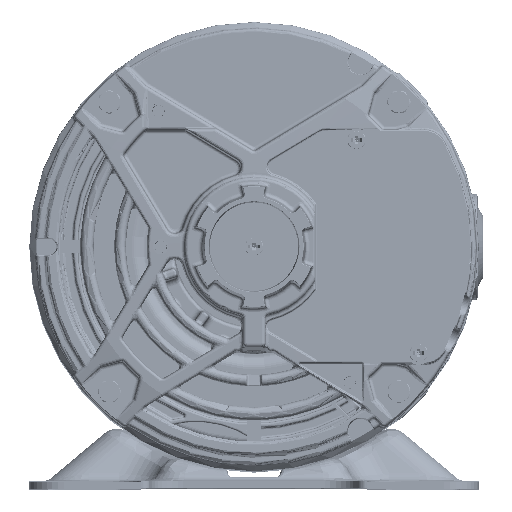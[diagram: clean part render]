
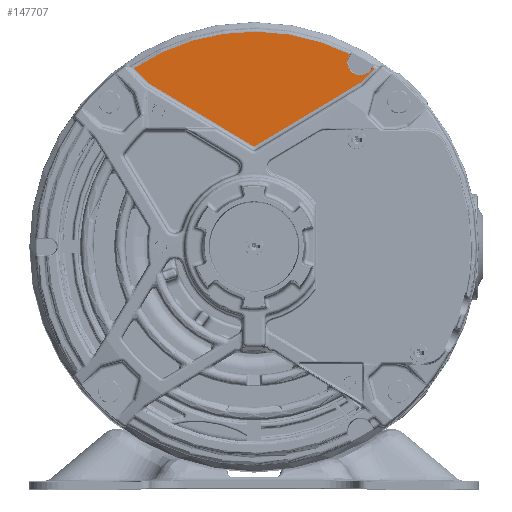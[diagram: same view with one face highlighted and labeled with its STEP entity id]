
A CAD part, top view. The second image highlights one B-rep face of the part: STEP entity #147707.
In plain terms, the highlighted planar face has unit normal (0, 0, 1).
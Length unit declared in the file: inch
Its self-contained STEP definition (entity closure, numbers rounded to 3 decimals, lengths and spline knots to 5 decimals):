
#4114 = VERTEX_POINT ( 'NONE', #343747 ) ;
#5103 = DIRECTION ( 'NONE',  ( 0.857, 0.515, 0. ) ) ;
#6562 = EDGE_CURVE ( 'NONE', #237366, #306438, #419266, .T. ) ;
#8040 = B_SPLINE_CURVE_WITH_KNOTS ( 'NONE', 3,
 ( #127367, #20206, #156569, #371034 ),
 .UNSPECIFIED., .F., .F.,
 ( 4, 4 ),
 ( 0., 0.0015 ),
 .UNSPECIFIED. ) ;
#8278 = EDGE_CURVE ( 'NONE', #182395, #4114, #402783, .T. ) ;
#8555 = DIRECTION ( 'NONE',  ( 0.707, 0.707, 0. ) ) ;
#13725 = EDGE_CURVE ( 'NONE', #38877, #237366, #113633, .T. ) ;
#14120 = CIRCLE ( 'NONE', #341310, 0.18989 ) ;
#14630 = CARTESIAN_POINT ( 'NONE',  ( -1.53257, 2.3678, 13.30005 ) ) ;
#20206 = CARTESIAN_POINT ( 'NONE',  ( 1.61326, 2.44836, 13.30005 ) ) ;
#24029 = PLANE ( 'NONE',  #153562 ) ;
#29358 = LINE ( 'NONE', #34744, #391264 ) ;
#34152 = EDGE_CURVE ( 'NONE', #306438, #342453, #391501, .T. ) ;
#34744 = CARTESIAN_POINT ( 'NONE',  ( -1.53413, 2.36922, 13.30005 ) ) ;
#38877 = VERTEX_POINT ( 'NONE', #337829 ) ;
#43890 = DIRECTION ( 'NONE',  ( 1., 0., 0. ) ) ;
#48385 = DIRECTION ( 'NONE',  ( 0., 0., -1. ) ) ;
#51327 = CARTESIAN_POINT ( 'NONE',  ( -1.53378, 2.36888, 13.30005 ) ) ;
#54581 = LINE ( 'NONE', #283950, #65551 ) ;
#62687 = ORIENTED_EDGE ( 'NONE', *, *, #397991, .T. ) ;
#65551 = VECTOR ( 'NONE', #5103, 39.37008 ) ;
#68008 = CARTESIAN_POINT ( 'NONE',  ( 1.53187, 2.36738, 13.30005 ) ) ;
#72494 = VERTEX_POINT ( 'NONE', #234776 ) ;
#81928 = VERTEX_POINT ( 'NONE', #188735 ) ;
#83466 = ORIENTED_EDGE ( 'NONE', *, *, #236771, .T. ) ;
#91769 = EDGE_CURVE ( 'NONE', #356746, #182395, #29358, .T. ) ;
#92066 = CARTESIAN_POINT ( 'NONE',  ( 1.71599, 2.59238, 13.30005 ) ) ;
#94508 = CARTESIAN_POINT ( 'NONE',  ( 0., 0., 13.30005 ) ) ;
#94532 =( BOUNDED_CURVE ( )  B_SPLINE_CURVE ( 3, ( #68008, #279408, #349983, #210410 ),
 .UNSPECIFIED., .F., .F. ) 
 B_SPLINE_CURVE_WITH_KNOTS ( ( 4, 4 ),
 ( 3.02001, 3.26318 ),
 .UNSPECIFIED. ) 
 CURVE ( )  GEOMETRIC_REPRESENTATION_ITEM ( )  RATIONAL_B_SPLINE_CURVE ( ( 1., 0.995, 0.995, 1. ) ) 
 REPRESENTATION_ITEM ( '' )  );
#94702 = LINE ( 'NONE', #356421, #363428 ) ;
#98168 = EDGE_CURVE ( 'NONE', #81928, #447532, #442197, .T. ) ;
#103653 = CARTESIAN_POINT ( 'NONE',  ( 1.53187, 2.36738, 13.30005 ) ) ;
#106639 = EDGE_LOOP ( 'NONE', ( #329211, #200873, #223985, #312415, #279411, #145686, #333480, #83466, #393985, #120212, #62687, #283566, #382128, #156772 ) ) ;
#108447 = CARTESIAN_POINT ( 'NONE',  ( 0., 0., 13.30005 ) ) ;
#113633 = B_SPLINE_CURVE_WITH_KNOTS ( 'NONE', 3,
 ( #202138, #375331, #409144, #199141 ),
 .UNSPECIFIED., .F., .F.,
 ( 4, 4 ),
 ( 0., 0.00362 ),
 .UNSPECIFIED. ) ;
#118576 = CARTESIAN_POINT ( 'NONE',  ( -1.53378, 2.36888, 13.30005 ) ) ;
#120212 = ORIENTED_EDGE ( 'NONE', *, *, #427306, .T. ) ;
#123809 = CARTESIAN_POINT ( 'NONE',  ( 1.70345, 2.57068, 13.30005 ) ) ;
#125551 = CARTESIAN_POINT ( 'NONE',  ( 1.59932, 2.43442, 13.30005 ) ) ;
#127367 = CARTESIAN_POINT ( 'NONE',  ( 1.59932, 2.43442, 13.30005 ) ) ;
#129739 = DIRECTION ( 'NONE',  ( 1., 0., 0. ) ) ;
#137515 = CARTESIAN_POINT ( 'NONE',  ( -0.00719, 1.45075, 13.30005 ) ) ;
#145686 = ORIENTED_EDGE ( 'NONE', *, *, #91769, .T. ) ;
#147707 = ADVANCED_FACE ( 'NONE', ( #149941 ), #24029, .T. ) ;
#147995 = CARTESIAN_POINT ( 'NONE',  ( 1.539, 2.66563, 13.30005 ) ) ;
#148567 = EDGE_CURVE ( 'NONE', #159559, #356746, #330754, .T. ) ;
#149941 = FACE_OUTER_BOUND ( 'NONE', #106639, .T. ) ;
#153562 = AXIS2_PLACEMENT_3D ( 'NONE', #413184, #379401, #239874 ) ;
#156569 = CARTESIAN_POINT ( 'NONE',  ( 1.62734, 2.46217, 13.30005 ) ) ;
#156772 = ORIENTED_EDGE ( 'NONE', *, *, #13725, .T. ) ;
#158588 = CARTESIAN_POINT ( 'NONE',  ( -1.53187, 2.36738, 13.30005 ) ) ;
#159559 = VERTEX_POINT ( 'NONE', #297093 ) ;
#160406 = VERTEX_POINT ( 'NONE', #103653 ) ;
#182395 = VERTEX_POINT ( 'NONE', #118576 ) ;
#188735 = CARTESIAN_POINT ( 'NONE',  ( -0.00513, 1.44951, 13.30005 ) ) ;
#199141 = CARTESIAN_POINT ( 'NONE',  ( 1.74711, 2.57151, 13.30005 ) ) ;
#200873 = ORIENTED_EDGE ( 'NONE', *, *, #34152, .T. ) ;
#202138 = CARTESIAN_POINT ( 'NONE',  ( 1.64155, 2.47583, 13.30005 ) ) ;
#210410 = CARTESIAN_POINT ( 'NONE',  ( 1.53378, 2.36888, 13.30005 ) ) ;
#217104 = CARTESIAN_POINT ( 'NONE',  ( 0.00513, 1.44951, 13.30005 ) ) ;
#223985 = ORIENTED_EDGE ( 'NONE', *, *, #372931, .T. ) ;
#232715 = EDGE_CURVE ( 'NONE', #252213, #299544, #94702, .T. ) ;
#234776 = CARTESIAN_POINT ( 'NONE',  ( 1.37455, 2.76057, 13.30005 ) ) ;
#236771 = EDGE_CURVE ( 'NONE', #4114, #81928, #443858, .T. ) ;
#237366 = VERTEX_POINT ( 'NONE', #369511 ) ;
#239874 = DIRECTION ( 'NONE',  ( 1., 0., 0. ) ) ;
#246009 = DIRECTION ( 'NONE',  ( 0.707, -0.707, 0. ) ) ;
#252213 = VERTEX_POINT ( 'NONE', #375222 ) ;
#259407 = CARTESIAN_POINT ( 'NONE',  ( -0.00189, 1.44756, 13.30005 ) ) ;
#259943 = CARTESIAN_POINT ( 'NONE',  ( -0.00513, 1.44951, 13.30005 ) ) ;
#277318 = DIRECTION ( 'NONE',  ( -0.5, -0.866, 0. ) ) ;
#279408 = CARTESIAN_POINT ( 'NONE',  ( 1.53257, 2.3678, 13.30005 ) ) ;
#279411 = ORIENTED_EDGE ( 'NONE', *, *, #148567, .T. ) ;
#281928 = EDGE_CURVE ( 'NONE', #72494, #159559, #338829, .T. ) ;
#283566 = ORIENTED_EDGE ( 'NONE', *, *, #232715, .T. ) ;
#283950 = CARTESIAN_POINT ( 'NONE',  ( 1.53145, 2.36713, 13.30005 ) ) ;
#284630 = DIRECTION ( 'NONE',  ( 1., 0., 0. ) ) ;
#293352 = DIRECTION ( 'NONE',  ( 0.5, 0.866, 0. ) ) ;
#293464 = CARTESIAN_POINT ( 'NONE',  ( -1.53321, 2.3683, 13.30005 ) ) ;
#294060 = CARTESIAN_POINT ( 'NONE',  ( 0.00513, 1.44951, 13.30005 ) ) ;
#297093 = CARTESIAN_POINT ( 'NONE',  ( 1.38708, 2.78228, 13.30005 ) ) ;
#299544 = VERTEX_POINT ( 'NONE', #125551 ) ;
#303709 = CARTESIAN_POINT ( 'NONE',  ( 0.00189, 1.44756, 13.30005 ) ) ;
#306438 = VERTEX_POINT ( 'NONE', #92066 ) ;
#312415 = ORIENTED_EDGE ( 'NONE', *, *, #281928, .T. ) ;
#329211 = ORIENTED_EDGE ( 'NONE', *, *, #6562, .T. ) ;
#330754 = CIRCLE ( 'NONE', #362419, 3.10887 ) ;
#333480 = ORIENTED_EDGE ( 'NONE', *, *, #8278, .T. ) ;
#337320 = EDGE_CURVE ( 'NONE', #299544, #38877, #8040, .T. ) ;
#337829 = CARTESIAN_POINT ( 'NONE',  ( 1.64155, 2.47583, 13.30005 ) ) ;
#338829 = LINE ( 'NONE', #402244, #454017 ) ;
#341310 = AXIS2_PLACEMENT_3D ( 'NONE', #147995, #48385, #43890 ) ;
#342453 = VERTEX_POINT ( 'NONE', #123809 ) ;
#343747 = CARTESIAN_POINT ( 'NONE',  ( -1.53187, 2.36738, 13.30005 ) ) ;
#349983 = CARTESIAN_POINT ( 'NONE',  ( 1.53321, 2.3683, 13.30005 ) ) ;
#350602 = DIRECTION ( 'NONE',  ( 0., 0., 1. ) ) ;
#351425 = CARTESIAN_POINT ( 'NONE',  ( -1.74074, 2.57583, 13.30005 ) ) ;
#356421 = CARTESIAN_POINT ( 'NONE',  ( 1.74675, 2.58185, 13.30005 ) ) ;
#356746 = VERTEX_POINT ( 'NONE', #351425 ) ;
#362419 = AXIS2_PLACEMENT_3D ( 'NONE', #108447, #350602, #284630 ) ;
#363428 = VECTOR ( 'NONE', #8555, 39.37008 ) ;
#369511 = CARTESIAN_POINT ( 'NONE',  ( 1.74711, 2.57151, 13.30005 ) ) ;
#371034 = CARTESIAN_POINT ( 'NONE',  ( 1.64155, 2.47583, 13.30005 ) ) ;
#372931 = EDGE_CURVE ( 'NONE', #342453, #72494, #14120, .T. ) ;
#375108 = VECTOR ( 'NONE', #277318, 39.37008 ) ;
#375222 = CARTESIAN_POINT ( 'NONE',  ( 1.53378, 2.36888, 13.30005 ) ) ;
#375331 = CARTESIAN_POINT ( 'NONE',  ( 1.67582, 2.50872, 13.30005 ) ) ;
#379401 = DIRECTION ( 'NONE',  ( 0., 0., 1. ) ) ;
#382128 = ORIENTED_EDGE ( 'NONE', *, *, #337320, .T. ) ;
#391264 = VECTOR ( 'NONE', #246009, 39.37008 ) ;
#391501 = LINE ( 'NONE', #418438, #375108 ) ;
#393985 = ORIENTED_EDGE ( 'NONE', *, *, #98168, .T. ) ;
#397991 = EDGE_CURVE ( 'NONE', #160406, #252213, #94532, .T. ) ;
#402244 = CARTESIAN_POINT ( 'NONE',  ( -0.16445, 0.09495, 13.30005 ) ) ;
#402783 =( BOUNDED_CURVE ( )  B_SPLINE_CURVE ( 3, ( #51327, #293464, #14630, #158588 ),
 .UNSPECIFIED., .F., .F. ) 
 B_SPLINE_CURVE_WITH_KNOTS ( ( 4, 4 ),
 ( 3.02001, 3.26318 ),
 .UNSPECIFIED. ) 
 CURVE ( )  GEOMETRIC_REPRESENTATION_ITEM ( )  RATIONAL_B_SPLINE_CURVE ( ( 1., 0.995, 0.995, 1. ) ) 
 REPRESENTATION_ITEM ( '' )  );
#409144 = CARTESIAN_POINT ( 'NONE',  ( 1.71093, 2.54073, 13.30005 ) ) ;
#413184 = CARTESIAN_POINT ( 'NONE',  ( 0., 0., 13.30005 ) ) ;
#416440 = DIRECTION ( 'NONE',  ( 0.857, -0.515, 0. ) ) ;
#418438 = CARTESIAN_POINT ( 'NONE',  ( 0.16445, -0.09495, 13.30005 ) ) ;
#419266 = CIRCLE ( 'NONE', #439449, 3.10887 ) ;
#427306 = EDGE_CURVE ( 'NONE', #447532, #160406, #54581, .T. ) ;
#439449 = AXIS2_PLACEMENT_3D ( 'NONE', #94508, #446932, #129739 ) ;
#442197 =( BOUNDED_CURVE ( )  B_SPLINE_CURVE ( 3, ( #259943, #259407, #303709, #217104 ),
 .UNSPECIFIED., .F., .T. ) 
 B_SPLINE_CURVE_WITH_KNOTS ( ( 4, 4 ),
 ( 2.60258, 3.68061 ),
 .UNSPECIFIED. ) 
 CURVE ( )  GEOMETRIC_REPRESENTATION_ITEM ( )  RATIONAL_B_SPLINE_CURVE ( ( 1., 0.905, 0.905, 1. ) ) 
 REPRESENTATION_ITEM ( '' )  );
#443858 = LINE ( 'NONE', #137515, #449620 ) ;
#446932 = DIRECTION ( 'NONE',  ( 0., 0., 1. ) ) ;
#447532 = VERTEX_POINT ( 'NONE', #294060 ) ;
#449620 = VECTOR ( 'NONE', #416440, 39.37008 ) ;
#454017 = VECTOR ( 'NONE', #293352, 39.37008 ) ;
